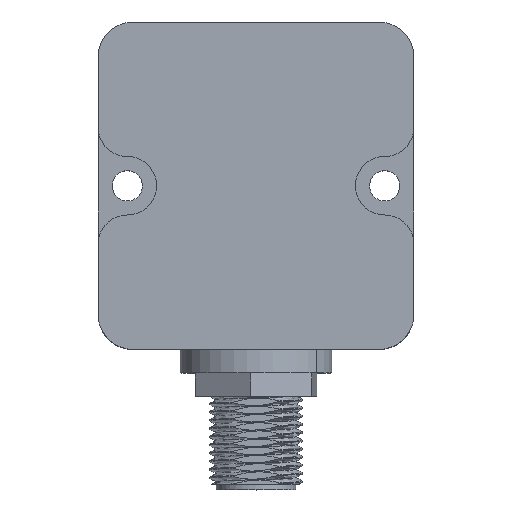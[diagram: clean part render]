
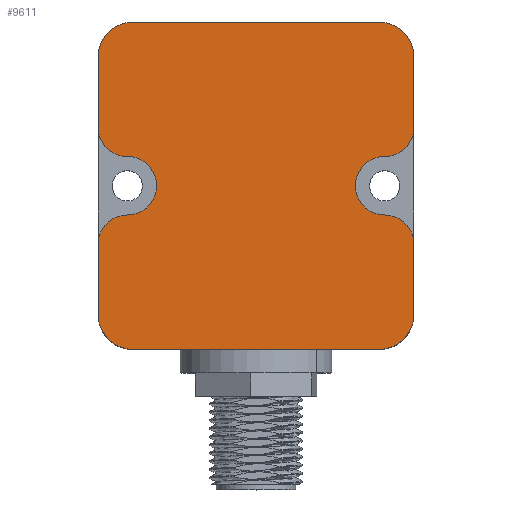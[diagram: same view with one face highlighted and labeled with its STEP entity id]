
A CAD part, top view. The second image highlights one B-rep face of the part: STEP entity #9611.
In plain terms, the highlighted planar face has unit normal (0, 0, 1).
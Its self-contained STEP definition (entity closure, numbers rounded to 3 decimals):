
#4 = CARTESIAN_POINT ( 'NONE',  ( -54.649, -5.538, 7. ) ) ;
#21 = CARTESIAN_POINT ( 'NONE',  ( -81.649, -5.538, 7. ) ) ;
#115 = ORIENTED_EDGE ( 'NONE', *, *, #11985, .T. ) ;
#372 = AXIS2_PLACEMENT_3D ( 'NONE', #8808, #12823, #7567 ) ;
#394 = CARTESIAN_POINT ( 'NONE',  ( -81.649, -11.538, 7. ) ) ;
#672 = CARTESIAN_POINT ( 'NONE',  ( -79.149, 4.462, 7. ) ) ;
#685 = LINE ( 'NONE', #6943, #13608 ) ;
#751 = ORIENTED_EDGE ( 'NONE', *, *, #10952, .T. ) ;
#767 = CARTESIAN_POINT ( 'NONE',  ( -68.149, -14.538, 7. ) ) ;
#769 = EDGE_CURVE ( 'NONE', #9065, #4322, #2665, .T. ) ;
#835 = CARTESIAN_POINT ( 'NONE',  ( -76.649, -0.538, 7. ) ) ;
#862 = CARTESIAN_POINT ( 'NONE',  ( -78.649, 13.462, 7. ) ) ;
#875 = CARTESIAN_POINT ( 'NONE',  ( -57.149, 1.962, 7. ) ) ;
#920 = CARTESIAN_POINT ( 'NONE',  ( -81.649, 10.462, 7. ) ) ;
#959 = CARTESIAN_POINT ( 'NONE',  ( -81.649, -5.538, 7. ) ) ;
#996 = CARTESIAN_POINT ( 'NONE',  ( -57.149, -0.538, 7. ) ) ;
#1157 = CARTESIAN_POINT ( 'NONE',  ( -79.149, -3.038, 7. ) ) ;
#1165 = VERTEX_POINT ( 'NONE', #4 ) ;
#1202 = DIRECTION ( 'NONE',  ( 1., 0., 0. ) ) ;
#1224 = AXIS2_PLACEMENT_3D ( 'NONE', #4585, #6668, #9921 ) ;
#1258 = ORIENTED_EDGE ( 'NONE', *, *, #10902, .T. ) ;
#1384 = DIRECTION ( 'NONE',  ( 1., 0., 0. ) ) ;
#1511 = CARTESIAN_POINT ( 'NONE',  ( -57.649, 10.462, 7. ) ) ;
#1576 = EDGE_CURVE ( 'NONE', #9651, #4472, #12562, .T. ) ;
#1603 = CARTESIAN_POINT ( 'NONE',  ( -54.649, 4.462, 7. ) ) ;
#1674 = CIRCLE ( 'NONE', #12759, 3. ) ;
#1913 = CARTESIAN_POINT ( 'NONE',  ( -54.649, -5.538, 7. ) ) ;
#1981 = LINE ( 'NONE', #1913, #6584 ) ;
#1987 = CARTESIAN_POINT ( 'NONE',  ( -54.649, 10.462, 7. ) ) ;
#1991 = DIRECTION ( 'NONE',  ( 0., 0., 1. ) ) ;
#2082 = ORIENTED_EDGE ( 'NONE', *, *, #11490, .T. ) ;
#2142 = AXIS2_PLACEMENT_3D ( 'NONE', #9714, #5490, #1384 ) ;
#2335 = EDGE_CURVE ( 'NONE', #4202, #3973, #13092, .T. ) ;
#2347 = AXIS2_PLACEMENT_3D ( 'NONE', #996, #9597, #1202 ) ;
#2510 = CARTESIAN_POINT ( 'NONE',  ( -57.649, -14.538, 7. ) ) ;
#2633 = EDGE_CURVE ( 'NONE', #3973, #10356, #8191, .T. ) ;
#2665 = CIRCLE ( 'NONE', #8213, 2.5 ) ;
#2694 = CIRCLE ( 'NONE', #9796, 2.5 ) ;
#2783 = CARTESIAN_POINT ( 'NONE',  ( -68.149, 13.462, 7. ) ) ;
#2905 = VECTOR ( 'NONE', #13606, 1000. ) ;
#3091 = EDGE_CURVE ( 'NONE', #3993, #9065, #2694, .T. ) ;
#3229 = CARTESIAN_POINT ( 'NONE',  ( -79.149, -0.538, 7. ) ) ;
#3445 = AXIS2_PLACEMENT_3D ( 'NONE', #5325, #1991, #4154 ) ;
#3588 = CARTESIAN_POINT ( 'NONE',  ( -57.649, 13.462, 7. ) ) ;
#3596 = ORIENTED_EDGE ( 'NONE', *, *, #11792, .T. ) ;
#3973 = VERTEX_POINT ( 'NONE', #3588 ) ;
#3993 = VERTEX_POINT ( 'NONE', #6927 ) ;
#4154 = DIRECTION ( 'NONE',  ( 1., 0., 0. ) ) ;
#4202 = VERTEX_POINT ( 'NONE', #1987 ) ;
#4243 = DIRECTION ( 'NONE',  ( 0., 0., -1. ) ) ;
#4322 = VERTEX_POINT ( 'NONE', #1157 ) ;
#4435 = ORIENTED_EDGE ( 'NONE', *, *, #1576, .T. ) ;
#4472 = VERTEX_POINT ( 'NONE', #394 ) ;
#4485 = EDGE_CURVE ( 'NONE', #7176, #4202, #8982, .T. ) ;
#4542 = EDGE_LOOP ( 'NONE', ( #4435, #7708, #3596, #8553, #5054, #1258, #2082, #751, #11487, #8237, #8635, #9881, #8990, #115, #6306, #7706, #5684 ) ) ;
#4547 = CIRCLE ( 'NONE', #1224, 3. ) ;
#4585 = CARTESIAN_POINT ( 'NONE',  ( -78.649, -11.538, 7. ) ) ;
#4685 = DIRECTION ( 'NONE',  ( 0., 1., 0. ) ) ;
#4865 = CARTESIAN_POINT ( 'NONE',  ( -54.649, -11.538, 7. ) ) ;
#4893 = CARTESIAN_POINT ( 'NONE',  ( -57.149, 4.462, 7. ) ) ;
#4906 = PLANE ( 'NONE',  #6348 ) ;
#5054 = ORIENTED_EDGE ( 'NONE', *, *, #9856, .T. ) ;
#5132 = AXIS2_PLACEMENT_3D ( 'NONE', #1511, #6796, #12368 ) ;
#5247 = CIRCLE ( 'NONE', #372, 2.5 ) ;
#5252 = DIRECTION ( 'NONE',  ( 0., 1., 0. ) ) ;
#5310 = DIRECTION ( 'NONE',  ( 1., 0., 0. ) ) ;
#5325 = CARTESIAN_POINT ( 'NONE',  ( -78.649, 10.462, 7. ) ) ;
#5404 = VECTOR ( 'NONE', #4685, 1000. ) ;
#5490 = DIRECTION ( 'NONE',  ( 0., 0., 1. ) ) ;
#5684 = ORIENTED_EDGE ( 'NONE', *, *, #12016, .T. ) ;
#5761 = VECTOR ( 'NONE', #7306, 1000. ) ;
#6306 = ORIENTED_EDGE ( 'NONE', *, *, #3091, .T. ) ;
#6348 = AXIS2_PLACEMENT_3D ( 'NONE', #672, #9134, #9210 ) ;
#6355 = VECTOR ( 'NONE', #12340, 1000. ) ;
#6409 = DIRECTION ( 'NONE',  ( 1., 0., 0. ) ) ;
#6584 = VECTOR ( 'NONE', #5252, 1000. ) ;
#6668 = DIRECTION ( 'NONE',  ( 0., 0., 1. ) ) ;
#6780 = AXIS2_PLACEMENT_3D ( 'NONE', #13421, #8149, #8299 ) ;
#6796 = DIRECTION ( 'NONE',  ( 0., 0., 1. ) ) ;
#6900 = CARTESIAN_POINT ( 'NONE',  ( -81.649, 4.462, 7. ) ) ;
#6927 = CARTESIAN_POINT ( 'NONE',  ( -79.149, 1.962, 7. ) ) ;
#6943 = CARTESIAN_POINT ( 'NONE',  ( -81.649, 4.462, 7. ) ) ;
#6993 = CIRCLE ( 'NONE', #6780, 2.5 ) ;
#7074 = DIRECTION ( 'NONE',  ( 0., -1., 0. ) ) ;
#7176 = VERTEX_POINT ( 'NONE', #1603 ) ;
#7263 = VERTEX_POINT ( 'NONE', #4865 ) ;
#7287 = CARTESIAN_POINT ( 'NONE',  ( -57.149, -3.038, 7. ) ) ;
#7295 = VERTEX_POINT ( 'NONE', #920 ) ;
#7306 = DIRECTION ( 'NONE',  ( 0., -1., 0. ) ) ;
#7466 = CIRCLE ( 'NONE', #2142, 2.5 ) ;
#7567 = DIRECTION ( 'NONE',  ( 1., 0., 0. ) ) ;
#7629 = CARTESIAN_POINT ( 'NONE',  ( -78.649, -14.538, 7. ) ) ;
#7706 = ORIENTED_EDGE ( 'NONE', *, *, #769, .T. ) ;
#7708 = ORIENTED_EDGE ( 'NONE', *, *, #10519, .T. ) ;
#7748 = EDGE_CURVE ( 'NONE', #7295, #11384, #685, .T. ) ;
#7837 = VERTEX_POINT ( 'NONE', #7287 ) ;
#8149 = DIRECTION ( 'NONE',  ( 0., 0., 1. ) ) ;
#8191 = LINE ( 'NONE', #2783, #2905 ) ;
#8213 = AXIS2_PLACEMENT_3D ( 'NONE', #11659, #4243, #6409 ) ;
#8237 = ORIENTED_EDGE ( 'NONE', *, *, #2335, .T. ) ;
#8299 = DIRECTION ( 'NONE',  ( 1., 0., 0. ) ) ;
#8553 = ORIENTED_EDGE ( 'NONE', *, *, #10147, .T. ) ;
#8635 = ORIENTED_EDGE ( 'NONE', *, *, #2633, .T. ) ;
#8808 = CARTESIAN_POINT ( 'NONE',  ( -79.149, -5.538, 7. ) ) ;
#8982 = LINE ( 'NONE', #11957, #5404 ) ;
#8990 = ORIENTED_EDGE ( 'NONE', *, *, #7748, .T. ) ;
#9065 = VERTEX_POINT ( 'NONE', #835 ) ;
#9118 = DIRECTION ( 'NONE',  ( 0., 0., 1. ) ) ;
#9134 = DIRECTION ( 'NONE',  ( 0., 0., 1. ) ) ;
#9210 = DIRECTION ( 'NONE',  ( 1., 0., 0. ) ) ;
#9274 = VERTEX_POINT ( 'NONE', #7629 ) ;
#9438 = CIRCLE ( 'NONE', #3445, 3. ) ;
#9597 = DIRECTION ( 'NONE',  ( 0., 0., -1. ) ) ;
#9611 = ADVANCED_FACE ( 'NONE', ( #10174 ), #4906, .T. ) ;
#9643 = EDGE_CURVE ( 'NONE', #10356, #7295, #9438, .T. ) ;
#9651 = VERTEX_POINT ( 'NONE', #959 ) ;
#9714 = CARTESIAN_POINT ( 'NONE',  ( -79.149, 4.462, 7. ) ) ;
#9796 = AXIS2_PLACEMENT_3D ( 'NONE', #3229, #11884, #5310 ) ;
#9856 = EDGE_CURVE ( 'NONE', #7263, #1165, #1981, .T. ) ;
#9881 = ORIENTED_EDGE ( 'NONE', *, *, #9643, .T. ) ;
#9921 = DIRECTION ( 'NONE',  ( 1., 0., 0. ) ) ;
#10147 = EDGE_CURVE ( 'NONE', #11591, #7263, #1674, .T. ) ;
#10174 = FACE_OUTER_BOUND ( 'NONE', #4542, .T. ) ;
#10356 = VERTEX_POINT ( 'NONE', #862 ) ;
#10519 = EDGE_CURVE ( 'NONE', #4472, #9274, #4547, .T. ) ;
#10823 = VERTEX_POINT ( 'NONE', #875 ) ;
#10902 = EDGE_CURVE ( 'NONE', #1165, #7837, #6993, .T. ) ;
#10952 = EDGE_CURVE ( 'NONE', #10823, #7176, #13405, .T. ) ;
#11118 = DIRECTION ( 'NONE',  ( 1., 0., 0. ) ) ;
#11185 = AXIS2_PLACEMENT_3D ( 'NONE', #4893, #9118, #13345 ) ;
#11298 = LINE ( 'NONE', #767, #6355 ) ;
#11384 = VERTEX_POINT ( 'NONE', #6900 ) ;
#11487 = ORIENTED_EDGE ( 'NONE', *, *, #4485, .T. ) ;
#11490 = EDGE_CURVE ( 'NONE', #7837, #10823, #12756, .T. ) ;
#11591 = VERTEX_POINT ( 'NONE', #2510 ) ;
#11659 = CARTESIAN_POINT ( 'NONE',  ( -79.149, -0.538, 7. ) ) ;
#11792 = EDGE_CURVE ( 'NONE', #9274, #11591, #11298, .T. ) ;
#11884 = DIRECTION ( 'NONE',  ( 0., 0., -1. ) ) ;
#11957 = CARTESIAN_POINT ( 'NONE',  ( -54.649, 4.462, 7. ) ) ;
#11985 = EDGE_CURVE ( 'NONE', #11384, #3993, #7466, .T. ) ;
#12016 = EDGE_CURVE ( 'NONE', #4322, #9651, #5247, .T. ) ;
#12340 = DIRECTION ( 'NONE',  ( 1., 0., 0. ) ) ;
#12368 = DIRECTION ( 'NONE',  ( 1., 0., 0. ) ) ;
#12562 = LINE ( 'NONE', #21, #5761 ) ;
#12756 = CIRCLE ( 'NONE', #2347, 2.5 ) ;
#12759 = AXIS2_PLACEMENT_3D ( 'NONE', #13265, #13128, #11118 ) ;
#12823 = DIRECTION ( 'NONE',  ( 0., 0., 1. ) ) ;
#13092 = CIRCLE ( 'NONE', #5132, 3. ) ;
#13128 = DIRECTION ( 'NONE',  ( 0., 0., 1. ) ) ;
#13265 = CARTESIAN_POINT ( 'NONE',  ( -57.649, -11.538, 7. ) ) ;
#13345 = DIRECTION ( 'NONE',  ( 1., 0., 0. ) ) ;
#13405 = CIRCLE ( 'NONE', #11185, 2.5 ) ;
#13421 = CARTESIAN_POINT ( 'NONE',  ( -57.149, -5.538, 7. ) ) ;
#13606 = DIRECTION ( 'NONE',  ( -1., 0., 0. ) ) ;
#13608 = VECTOR ( 'NONE', #7074, 1000. ) ;
